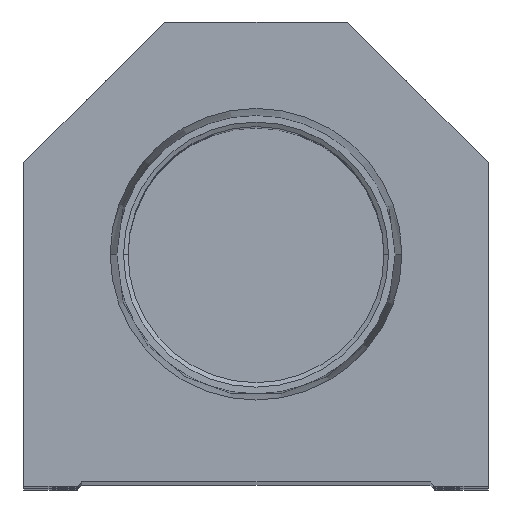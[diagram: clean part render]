
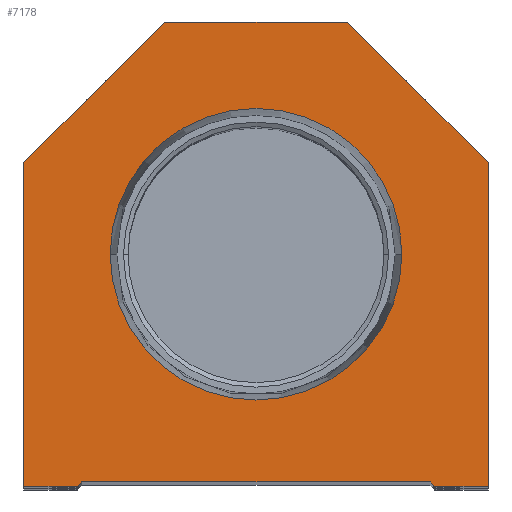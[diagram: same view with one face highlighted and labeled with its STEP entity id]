
A CAD part, top view. The second image highlights one B-rep face of the part: STEP entity #7178.
In plain terms, the highlighted planar face has unit normal (0, 0, 1).
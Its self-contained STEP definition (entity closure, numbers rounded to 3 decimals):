
#383 = FACE_BOUND ( 'NONE', #1148, .T. ) ;
#454 = CARTESIAN_POINT ( 'NONE',  ( 9.775, 9.775, 0. ) ) ;
#492 = ORIENTED_EDGE ( 'NONE', *, *, #3422, .T. ) ;
#593 = DIRECTION ( 'NONE',  ( 1., 0., 0. ) ) ;
#766 = CARTESIAN_POINT ( 'NONE',  ( -25.4, 35.4, 0. ) ) ;
#1148 = EDGE_LOOP ( 'NONE', ( #9163, #12485 ) ) ;
#1796 = CARTESIAN_POINT ( 'NONE',  ( 25.4, 35.4, 0. ) ) ;
#1891 = LINE ( 'NONE', #15997, #2839 ) ;
#1953 = ORIENTED_EDGE ( 'NONE', *, *, #17257, .T. ) ;
#1956 = VERTEX_POINT ( 'NONE', #12791 ) ;
#2046 = CARTESIAN_POINT ( 'NONE',  ( 19.05, 0., 0. ) ) ;
#2309 = CARTESIAN_POINT ( 'NONE',  ( -25.4, 35.4, 0. ) ) ;
#2478 = VECTOR ( 'NONE', #17610, 1000. ) ;
#2495 = CARTESIAN_POINT ( 'NONE',  ( 25.4, 0., 0. ) ) ;
#2839 = VECTOR ( 'NONE', #17861, 1000. ) ;
#2909 = LINE ( 'NONE', #15743, #15286 ) ;
#2956 = VERTEX_POINT ( 'NONE', #15088 ) ;
#3321 = VERTEX_POINT ( 'NONE', #15694 ) ;
#3422 = EDGE_CURVE ( 'NONE', #3321, #16665, #1891, .T. ) ;
#3495 = EDGE_CURVE ( 'NONE', #10136, #14904, #8501, .T. ) ;
#3906 = CARTESIAN_POINT ( 'NONE',  ( 25.4, 0., 0. ) ) ;
#3983 = AXIS2_PLACEMENT_3D ( 'NONE', #8687, #12144, #593 ) ;
#4274 = VERTEX_POINT ( 'NONE', #3906 ) ;
#5035 = DIRECTION ( 'NONE',  ( 1., 0., 0. ) ) ;
#5075 = DIRECTION ( 'NONE',  ( 0.707, -0.707, 0. ) ) ;
#5261 = VECTOR ( 'NONE', #18157, 1000. ) ;
#5448 = ORIENTED_EDGE ( 'NONE', *, *, #17489, .T. ) ;
#6009 = LINE ( 'NONE', #18752, #8835 ) ;
#6603 = ORIENTED_EDGE ( 'NONE', *, *, #11628, .T. ) ;
#6754 = DIRECTION ( 'NONE',  ( 1., 0., 0. ) ) ;
#6756 = VERTEX_POINT ( 'NONE', #10527 ) ;
#6828 = ORIENTED_EDGE ( 'NONE', *, *, #15845, .T. ) ;
#7178 = ADVANCED_FACE ( 'NONE', ( #383, #14480 ), #19199, .T. ) ;
#7320 = EDGE_CURVE ( 'NONE', #4274, #11876, #16787, .T. ) ;
#8071 = EDGE_CURVE ( 'NONE', #6756, #4274, #13733, .T. ) ;
#8118 = CARTESIAN_POINT ( 'NONE',  ( -15.947, 25.4, 0. ) ) ;
#8361 = EDGE_LOOP ( 'NONE', ( #6828, #492, #5448, #6603, #19109, #9343, #14744, #1953, #19123, #16398 ) ) ;
#8442 = LINE ( 'NONE', #16131, #2478 ) ;
#8501 = LINE ( 'NONE', #2309, #9537 ) ;
#8526 = VERTEX_POINT ( 'NONE', #18787 ) ;
#8527 = CARTESIAN_POINT ( 'NONE',  ( -10., 50.8, 0. ) ) ;
#8571 = LINE ( 'NONE', #10040, #16957 ) ;
#8687 = CARTESIAN_POINT ( 'NONE',  ( 0., 25.4, 0. ) ) ;
#8835 = VECTOR ( 'NONE', #20496, 1000. ) ;
#9144 = VECTOR ( 'NONE', #5075, 1000. ) ;
#9163 = ORIENTED_EDGE ( 'NONE', *, *, #13781, .F. ) ;
#9299 = AXIS2_PLACEMENT_3D ( 'NONE', #9851, #17839, #14794 ) ;
#9343 = ORIENTED_EDGE ( 'NONE', *, *, #7320, .T. ) ;
#9422 = EDGE_CURVE ( 'NONE', #10011, #8526, #13030, .T. ) ;
#9537 = VECTOR ( 'NONE', #18498, 1000. ) ;
#9600 = VECTOR ( 'NONE', #11849, 1000. ) ;
#9851 = CARTESIAN_POINT ( 'NONE',  ( 0., 0., 0. ) ) ;
#10011 = VERTEX_POINT ( 'NONE', #8118 ) ;
#10040 = CARTESIAN_POINT ( 'NONE',  ( -19.05, 0.5, 0. ) ) ;
#10069 = CARTESIAN_POINT ( 'NONE',  ( 25.4, 35.4, 0. ) ) ;
#10136 = VERTEX_POINT ( 'NONE', #8527 ) ;
#10281 = DIRECTION ( 'NONE',  ( 0., 0., 1. ) ) ;
#10476 = CIRCLE ( 'NONE', #11468, 15.947 ) ;
#10527 = CARTESIAN_POINT ( 'NONE',  ( 19.55, 0., 0. ) ) ;
#11468 = AXIS2_PLACEMENT_3D ( 'NONE', #11959, #10281, #5035 ) ;
#11628 = EDGE_CURVE ( 'NONE', #2956, #6756, #15078, .T. ) ;
#11849 = DIRECTION ( 'NONE',  ( -0.707, 0.707, 0. ) ) ;
#11876 = VERTEX_POINT ( 'NONE', #1796 ) ;
#11959 = CARTESIAN_POINT ( 'NONE',  ( 0., 25.4, 0. ) ) ;
#12144 = DIRECTION ( 'NONE',  ( 0., 0., 1. ) ) ;
#12434 = CARTESIAN_POINT ( 'NONE',  ( -25.4, 0., 0. ) ) ;
#12485 = ORIENTED_EDGE ( 'NONE', *, *, #9422, .F. ) ;
#12545 = EDGE_CURVE ( 'NONE', #14904, #13450, #8442, .T. ) ;
#12791 = CARTESIAN_POINT ( 'NONE',  ( 10., 50.8, 0. ) ) ;
#13030 = CIRCLE ( 'NONE', #3983, 15.947 ) ;
#13443 = LINE ( 'NONE', #10069, #9600 ) ;
#13450 = VERTEX_POINT ( 'NONE', #12434 ) ;
#13733 = LINE ( 'NONE', #2046, #16060 ) ;
#13781 = EDGE_CURVE ( 'NONE', #8526, #10011, #10476, .T. ) ;
#14480 = FACE_OUTER_BOUND ( 'NONE', #8361, .T. ) ;
#14744 = ORIENTED_EDGE ( 'NONE', *, *, #20666, .T. ) ;
#14794 = DIRECTION ( 'NONE',  ( 1., 0., 0. ) ) ;
#14904 = VERTEX_POINT ( 'NONE', #766 ) ;
#15078 = LINE ( 'NONE', #454, #9144 ) ;
#15088 = CARTESIAN_POINT ( 'NONE',  ( 19.05, 0.5, 0. ) ) ;
#15197 = DIRECTION ( 'NONE',  ( 1., 0., 0. ) ) ;
#15286 = VECTOR ( 'NONE', #20641, 1000. ) ;
#15694 = CARTESIAN_POINT ( 'NONE',  ( -19.55, 0., 0. ) ) ;
#15743 = CARTESIAN_POINT ( 'NONE',  ( 10., 50.8, 0. ) ) ;
#15845 = EDGE_CURVE ( 'NONE', #13450, #3321, #6009, .T. ) ;
#15997 = CARTESIAN_POINT ( 'NONE',  ( -9.775, 9.775, 0. ) ) ;
#16060 = VECTOR ( 'NONE', #15197, 1000. ) ;
#16131 = CARTESIAN_POINT ( 'NONE',  ( -25.4, 0., 0. ) ) ;
#16398 = ORIENTED_EDGE ( 'NONE', *, *, #12545, .T. ) ;
#16665 = VERTEX_POINT ( 'NONE', #17197 ) ;
#16787 = LINE ( 'NONE', #2495, #5261 ) ;
#16957 = VECTOR ( 'NONE', #6754, 1000. ) ;
#17197 = CARTESIAN_POINT ( 'NONE',  ( -19.05, 0.5, 0. ) ) ;
#17257 = EDGE_CURVE ( 'NONE', #1956, #10136, #2909, .T. ) ;
#17489 = EDGE_CURVE ( 'NONE', #16665, #2956, #8571, .T. ) ;
#17610 = DIRECTION ( 'NONE',  ( 0., -1., 0. ) ) ;
#17839 = DIRECTION ( 'NONE',  ( 0., 0., 1. ) ) ;
#17861 = DIRECTION ( 'NONE',  ( 0.707, 0.707, 0. ) ) ;
#18157 = DIRECTION ( 'NONE',  ( 0., 1., 0. ) ) ;
#18498 = DIRECTION ( 'NONE',  ( -0.707, -0.707, 0. ) ) ;
#18752 = CARTESIAN_POINT ( 'NONE',  ( -19.05, 0., 0. ) ) ;
#18787 = CARTESIAN_POINT ( 'NONE',  ( 15.947, 25.4, 0. ) ) ;
#19109 = ORIENTED_EDGE ( 'NONE', *, *, #8071, .T. ) ;
#19123 = ORIENTED_EDGE ( 'NONE', *, *, #3495, .T. ) ;
#19199 = PLANE ( 'NONE',  #9299 ) ;
#20496 = DIRECTION ( 'NONE',  ( 1., 0., 0. ) ) ;
#20641 = DIRECTION ( 'NONE',  ( -1., 0., 0. ) ) ;
#20666 = EDGE_CURVE ( 'NONE', #11876, #1956, #13443, .T. ) ;
